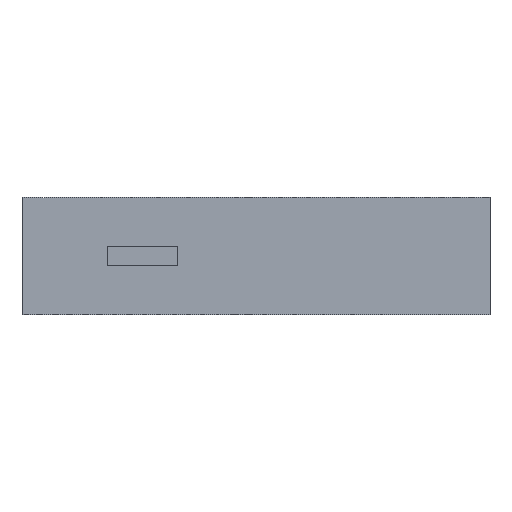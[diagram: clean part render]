
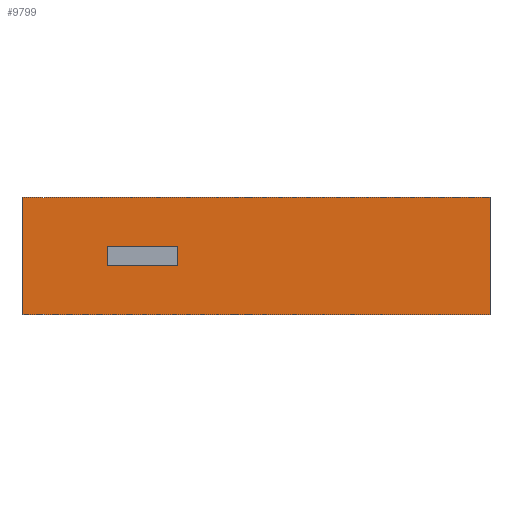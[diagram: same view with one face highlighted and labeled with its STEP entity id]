
A CAD part, left-side view. The second image highlights one B-rep face of the part: STEP entity #9799.
In plain terms, the highlighted planar face has unit normal (-1, 0, 0).
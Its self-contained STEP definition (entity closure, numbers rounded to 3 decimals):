
#21 = EDGE_CURVE('',#22,#24,#26,.T.);
#22 = VERTEX_POINT('',#23);
#23 = CARTESIAN_POINT('',(0.,-70.,0.));
#24 = VERTEX_POINT('',#25);
#25 = CARTESIAN_POINT('',(0.,-70.,30.));
#26 = SURFACE_CURVE('',#27,(#31,#43),.PCURVE_S1.);
#27 = LINE('',#28,#29);
#28 = CARTESIAN_POINT('',(0.,-70.,0.));
#29 = VECTOR('',#30,1.);
#30 = DIRECTION('',(0.,0.,1.));
#31 = PCURVE('',#32,#37);
#32 = PLANE('',#33);
#33 = AXIS2_PLACEMENT_3D('',#34,#35,#36);
#34 = CARTESIAN_POINT('',(0.,-70.,30.));
#35 = DIRECTION('',(0.092,-0.996,
    0.));
#36 = DIRECTION('',(-0.996,-0.092,0.));
#37 = DEFINITIONAL_REPRESENTATION('',(#38),#42);
#38 = LINE('',#39,#40);
#39 = CARTESIAN_POINT('',(0.,30.));
#40 = VECTOR('',#41,1.);
#41 = DIRECTION('',(0.,-1.));
#42 = ( GEOMETRIC_REPRESENTATION_CONTEXT(2) 
PARAMETRIC_REPRESENTATION_CONTEXT() REPRESENTATION_CONTEXT('2D SPACE',''
  ) );
#43 = PCURVE('',#44,#49);
#44 = PLANE('',#45);
#45 = AXIS2_PLACEMENT_3D('',#46,#47,#48);
#46 = CARTESIAN_POINT('',(0.,10.073,17.5));
#47 = DIRECTION('',(-1.,0.,0.));
#48 = DIRECTION('',(0.,0.,-1.));
#49 = DEFINITIONAL_REPRESENTATION('',(#50),#54);
#50 = LINE('',#51,#52);
#51 = CARTESIAN_POINT('',(17.5,80.073));
#52 = VECTOR('',#53,1.);
#53 = DIRECTION('',(-1.,0.));
#54 = ( GEOMETRIC_REPRESENTATION_CONTEXT(2) 
PARAMETRIC_REPRESENTATION_CONTEXT() REPRESENTATION_CONTEXT('2D SPACE',''
  ) );
#72 = PLANE('',#73);
#73 = AXIS2_PLACEMENT_3D('',#74,#75,#76);
#74 = CARTESIAN_POINT('',(33.299,-56.625,0.));
#75 = DIRECTION('',(0.,0.,-1.));
#76 = DIRECTION('',(-1.,0.,-0.));
#126 = PLANE('',#127);
#127 = AXIS2_PLACEMENT_3D('',#128,#129,#130);
#128 = CARTESIAN_POINT('',(4.041,-69.627,30.));
#129 = DIRECTION('',(0.,-0.,1.));
#130 = DIRECTION('',(1.,0.,0.));
#911 = EDGE_CURVE('',#912,#22,#914,.T.);
#912 = VERTEX_POINT('',#913);
#913 = CARTESIAN_POINT('',(0.,50.,0.));
#914 = SURFACE_CURVE('',#915,(#919,#926),.PCURVE_S1.);
#915 = LINE('',#916,#917);
#916 = CARTESIAN_POINT('',(0.,50.,0.));
#917 = VECTOR('',#918,1.);
#918 = DIRECTION('',(0.,-1.,0.));
#919 = PCURVE('',#72,#920);
#920 = DEFINITIONAL_REPRESENTATION('',(#921),#925);
#921 = LINE('',#922,#923);
#922 = CARTESIAN_POINT('',(33.299,106.625));
#923 = VECTOR('',#924,1.);
#924 = DIRECTION('',(0.,-1.));
#925 = ( GEOMETRIC_REPRESENTATION_CONTEXT(2) 
PARAMETRIC_REPRESENTATION_CONTEXT() REPRESENTATION_CONTEXT('2D SPACE',''
  ) );
#926 = PCURVE('',#44,#927);
#927 = DEFINITIONAL_REPRESENTATION('',(#928),#932);
#928 = LINE('',#929,#930);
#929 = CARTESIAN_POINT('',(17.5,-39.927));
#930 = VECTOR('',#931,1.);
#931 = DIRECTION('',(0.,1.));
#932 = ( GEOMETRIC_REPRESENTATION_CONTEXT(2) 
PARAMETRIC_REPRESENTATION_CONTEXT() REPRESENTATION_CONTEXT('2D SPACE',''
  ) );
#950 = PLANE('',#951);
#951 = AXIS2_PLACEMENT_3D('',#952,#953,#954);
#952 = CARTESIAN_POINT('',(187.,50.,0.));
#953 = DIRECTION('',(0.,1.,-0.));
#954 = DIRECTION('',(0.,0.,1.));
#5166 = EDGE_CURVE('',#5167,#5169,#5171,.T.);
#5167 = VERTEX_POINT('',#5168);
#5168 = CARTESIAN_POINT('',(0.,28.073,12.5));
#5169 = VERTEX_POINT('',#5170);
#5170 = CARTESIAN_POINT('',(0.,28.073,17.5));
#5171 = SURFACE_CURVE('',#5172,(#5176,#5188),.PCURVE_S1.);
#5172 = LINE('',#5173,#5174);
#5173 = CARTESIAN_POINT('',(0.,28.073,12.5));
#5174 = VECTOR('',#5175,1.);
#5175 = DIRECTION('',(0.,0.,1.));
#5176 = PCURVE('',#5177,#5182);
#5177 = PLANE('',#5178);
#5178 = AXIS2_PLACEMENT_3D('',#5179,#5180,#5181);
#5179 = CARTESIAN_POINT('',(0.,28.073,17.5));
#5180 = DIRECTION('',(0.,-1.,0.));
#5181 = DIRECTION('',(0.,-0.,-1.));
#5182 = DEFINITIONAL_REPRESENTATION('',(#5183),#5187);
#5183 = LINE('',#5184,#5185);
#5184 = CARTESIAN_POINT('',(5.,0.));
#5185 = VECTOR('',#5186,1.);
#5186 = DIRECTION('',(-1.,0.));
#5187 = ( GEOMETRIC_REPRESENTATION_CONTEXT(2) 
PARAMETRIC_REPRESENTATION_CONTEXT() REPRESENTATION_CONTEXT('2D SPACE',''
  ) );
#5188 = PCURVE('',#44,#5189);
#5189 = DEFINITIONAL_REPRESENTATION('',(#5190),#5194);
#5190 = LINE('',#5191,#5192);
#5191 = CARTESIAN_POINT('',(5.,-18.));
#5192 = VECTOR('',#5193,1.);
#5193 = DIRECTION('',(-1.,0.));
#5194 = ( GEOMETRIC_REPRESENTATION_CONTEXT(2) 
PARAMETRIC_REPRESENTATION_CONTEXT() REPRESENTATION_CONTEXT('2D SPACE',''
  ) );
#5212 = PLANE('',#5213);
#5213 = AXIS2_PLACEMENT_3D('',#5214,#5215,#5216);
#5214 = CARTESIAN_POINT('',(0.,28.073,12.5));
#5215 = DIRECTION('',(-0.,0.,1.));
#5216 = DIRECTION('',(1.,0.,0.));
#5266 = PLANE('',#5267);
#5267 = AXIS2_PLACEMENT_3D('',#5268,#5269,#5270);
#5268 = CARTESIAN_POINT('',(0.,28.073,17.5));
#5269 = DIRECTION('',(0.,0.,-1.));
#5270 = DIRECTION('',(-1.,0.,-0.));
#5411 = VERTEX_POINT('',#5412);
#5412 = CARTESIAN_POINT('',(0.,10.073,17.5));
#5426 = PLANE('',#5427);
#5427 = AXIS2_PLACEMENT_3D('',#5428,#5429,#5430);
#5428 = CARTESIAN_POINT('',(0.,10.073,12.5));
#5429 = DIRECTION('',(0.,1.,0.));
#5430 = DIRECTION('',(0.,-0.,1.));
#5438 = EDGE_CURVE('',#5169,#5411,#5439,.T.);
#5439 = SURFACE_CURVE('',#5440,(#5444,#5451),.PCURVE_S1.);
#5440 = LINE('',#5441,#5442);
#5441 = CARTESIAN_POINT('',(0.,28.073,17.5));
#5442 = VECTOR('',#5443,1.);
#5443 = DIRECTION('',(0.,-1.,0.));
#5444 = PCURVE('',#5266,#5445);
#5445 = DEFINITIONAL_REPRESENTATION('',(#5446),#5450);
#5446 = LINE('',#5447,#5448);
#5447 = CARTESIAN_POINT('',(0.,0.));
#5448 = VECTOR('',#5449,1.);
#5449 = DIRECTION('',(0.,-1.));
#5450 = ( GEOMETRIC_REPRESENTATION_CONTEXT(2) 
PARAMETRIC_REPRESENTATION_CONTEXT() REPRESENTATION_CONTEXT('2D SPACE',''
  ) );
#5451 = PCURVE('',#44,#5452);
#5452 = DEFINITIONAL_REPRESENTATION('',(#5453),#5457);
#5453 = LINE('',#5454,#5455);
#5454 = CARTESIAN_POINT('',(0.,-18.));
#5455 = VECTOR('',#5456,1.);
#5456 = DIRECTION('',(0.,1.));
#5457 = ( GEOMETRIC_REPRESENTATION_CONTEXT(2) 
PARAMETRIC_REPRESENTATION_CONTEXT() REPRESENTATION_CONTEXT('2D SPACE',''
  ) );
#5511 = EDGE_CURVE('',#5167,#5512,#5514,.T.);
#5512 = VERTEX_POINT('',#5513);
#5513 = CARTESIAN_POINT('',(0.,10.073,12.5));
#5514 = SURFACE_CURVE('',#5515,(#5519,#5526),.PCURVE_S1.);
#5515 = LINE('',#5516,#5517);
#5516 = CARTESIAN_POINT('',(0.,28.073,12.5));
#5517 = VECTOR('',#5518,1.);
#5518 = DIRECTION('',(0.,-1.,0.));
#5519 = PCURVE('',#5212,#5520);
#5520 = DEFINITIONAL_REPRESENTATION('',(#5521),#5525);
#5521 = LINE('',#5522,#5523);
#5522 = CARTESIAN_POINT('',(0.,0.));
#5523 = VECTOR('',#5524,1.);
#5524 = DIRECTION('',(0.,-1.));
#5525 = ( GEOMETRIC_REPRESENTATION_CONTEXT(2) 
PARAMETRIC_REPRESENTATION_CONTEXT() REPRESENTATION_CONTEXT('2D SPACE',''
  ) );
#5526 = PCURVE('',#44,#5527);
#5527 = DEFINITIONAL_REPRESENTATION('',(#5528),#5532);
#5528 = LINE('',#5529,#5530);
#5529 = CARTESIAN_POINT('',(5.,-18.));
#5530 = VECTOR('',#5531,1.);
#5531 = DIRECTION('',(0.,1.));
#5532 = ( GEOMETRIC_REPRESENTATION_CONTEXT(2) 
PARAMETRIC_REPRESENTATION_CONTEXT() REPRESENTATION_CONTEXT('2D SPACE',''
  ) );
#5584 = EDGE_CURVE('',#5512,#5411,#5585,.T.);
#5585 = SURFACE_CURVE('',#5586,(#5590,#5597),.PCURVE_S1.);
#5586 = LINE('',#5587,#5588);
#5587 = CARTESIAN_POINT('',(0.,10.073,12.5));
#5588 = VECTOR('',#5589,1.);
#5589 = DIRECTION('',(0.,0.,1.));
#5590 = PCURVE('',#5426,#5591);
#5591 = DEFINITIONAL_REPRESENTATION('',(#5592),#5596);
#5592 = LINE('',#5593,#5594);
#5593 = CARTESIAN_POINT('',(0.,0.));
#5594 = VECTOR('',#5595,1.);
#5595 = DIRECTION('',(1.,0.));
#5596 = ( GEOMETRIC_REPRESENTATION_CONTEXT(2) 
PARAMETRIC_REPRESENTATION_CONTEXT() REPRESENTATION_CONTEXT('2D SPACE',''
  ) );
#5597 = PCURVE('',#44,#5598);
#5598 = DEFINITIONAL_REPRESENTATION('',(#5599),#5603);
#5599 = LINE('',#5600,#5601);
#5600 = CARTESIAN_POINT('',(5.,0.));
#5601 = VECTOR('',#5602,1.);
#5602 = DIRECTION('',(-1.,0.));
#5603 = ( GEOMETRIC_REPRESENTATION_CONTEXT(2) 
PARAMETRIC_REPRESENTATION_CONTEXT() REPRESENTATION_CONTEXT('2D SPACE',''
  ) );
#9799 = ADVANCED_FACE('',(#9800,#9806),#44,.T.);
#9800 = FACE_BOUND('',#9801,.T.);
#9801 = EDGE_LOOP('',(#9802,#9803,#9804,#9805));
#9802 = ORIENTED_EDGE('',*,*,#5438,.T.);
#9803 = ORIENTED_EDGE('',*,*,#5584,.F.);
#9804 = ORIENTED_EDGE('',*,*,#5511,.F.);
#9805 = ORIENTED_EDGE('',*,*,#5166,.T.);
#9806 = FACE_BOUND('',#9807,.T.);
#9807 = EDGE_LOOP('',(#9808,#9831,#9852,#9853));
#9808 = ORIENTED_EDGE('',*,*,#9809,.F.);
#9809 = EDGE_CURVE('',#9810,#24,#9812,.T.);
#9810 = VERTEX_POINT('',#9811);
#9811 = CARTESIAN_POINT('',(0.,50.,30.));
#9812 = SURFACE_CURVE('',#9813,(#9817,#9824),.PCURVE_S1.);
#9813 = LINE('',#9814,#9815);
#9814 = CARTESIAN_POINT('',(0.,50.,30.));
#9815 = VECTOR('',#9816,1.);
#9816 = DIRECTION('',(0.,-1.,0.));
#9817 = PCURVE('',#44,#9818);
#9818 = DEFINITIONAL_REPRESENTATION('',(#9819),#9823);
#9819 = LINE('',#9820,#9821);
#9820 = CARTESIAN_POINT('',(-12.5,-39.927));
#9821 = VECTOR('',#9822,1.);
#9822 = DIRECTION('',(0.,1.));
#9823 = ( GEOMETRIC_REPRESENTATION_CONTEXT(2) 
PARAMETRIC_REPRESENTATION_CONTEXT() REPRESENTATION_CONTEXT('2D SPACE',''
  ) );
#9824 = PCURVE('',#126,#9825);
#9825 = DEFINITIONAL_REPRESENTATION('',(#9826),#9830);
#9826 = LINE('',#9827,#9828);
#9827 = CARTESIAN_POINT('',(-4.041,119.627));
#9828 = VECTOR('',#9829,1.);
#9829 = DIRECTION('',(0.,-1.));
#9830 = ( GEOMETRIC_REPRESENTATION_CONTEXT(2) 
PARAMETRIC_REPRESENTATION_CONTEXT() REPRESENTATION_CONTEXT('2D SPACE',''
  ) );
#9831 = ORIENTED_EDGE('',*,*,#9832,.F.);
#9832 = EDGE_CURVE('',#912,#9810,#9833,.T.);
#9833 = SURFACE_CURVE('',#9834,(#9838,#9845),.PCURVE_S1.);
#9834 = LINE('',#9835,#9836);
#9835 = CARTESIAN_POINT('',(0.,50.,0.));
#9836 = VECTOR('',#9837,1.);
#9837 = DIRECTION('',(0.,0.,1.));
#9838 = PCURVE('',#44,#9839);
#9839 = DEFINITIONAL_REPRESENTATION('',(#9840),#9844);
#9840 = LINE('',#9841,#9842);
#9841 = CARTESIAN_POINT('',(17.5,-39.927));
#9842 = VECTOR('',#9843,1.);
#9843 = DIRECTION('',(-1.,0.));
#9844 = ( GEOMETRIC_REPRESENTATION_CONTEXT(2) 
PARAMETRIC_REPRESENTATION_CONTEXT() REPRESENTATION_CONTEXT('2D SPACE',''
  ) );
#9845 = PCURVE('',#950,#9846);
#9846 = DEFINITIONAL_REPRESENTATION('',(#9847),#9851);
#9847 = LINE('',#9848,#9849);
#9848 = CARTESIAN_POINT('',(0.,-187.));
#9849 = VECTOR('',#9850,1.);
#9850 = DIRECTION('',(1.,0.));
#9851 = ( GEOMETRIC_REPRESENTATION_CONTEXT(2) 
PARAMETRIC_REPRESENTATION_CONTEXT() REPRESENTATION_CONTEXT('2D SPACE',''
  ) );
#9852 = ORIENTED_EDGE('',*,*,#911,.T.);
#9853 = ORIENTED_EDGE('',*,*,#21,.T.);
